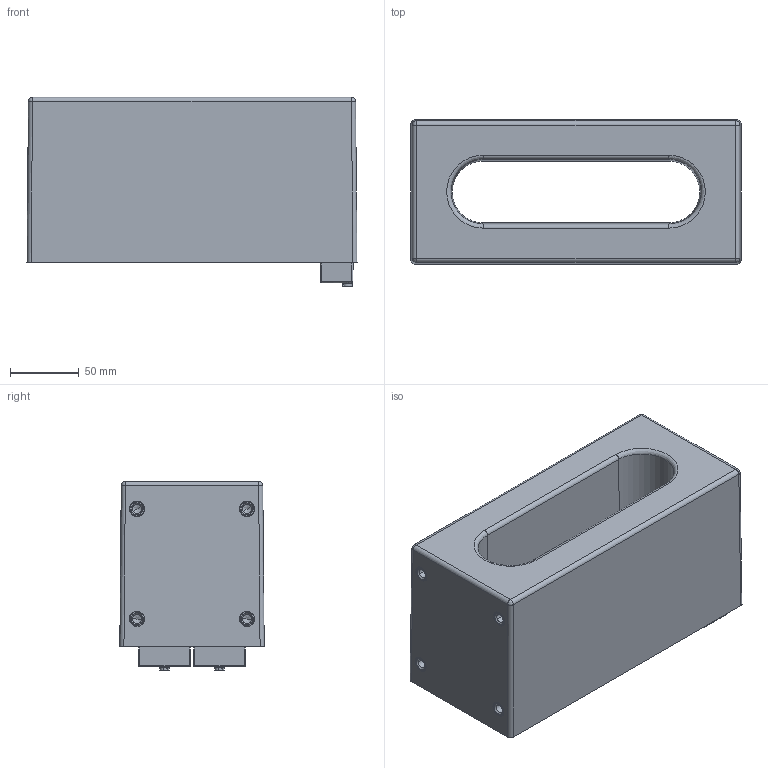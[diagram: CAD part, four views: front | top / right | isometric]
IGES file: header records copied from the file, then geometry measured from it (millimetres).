
Start section: IGES file generated from Kompas f.0 for Windows drawing by the IGES translator from Ascon Ltd., translator version IGESOUT-5.1.
Global section: file name: C:\Ðàáîòà\Èçâåùåíèÿ 5\ÒØÏ-ÍÒÇ-0.66-31 (îâàëüíûé)\3D ìîäåëü (ïî êîðîòêîé ñòîðîíå)\ÒØÏ-ÍÒÇ-0,66-31 Ó2, Ò2.igs; native system: Kompas( 32 bit ) for Windows; preprocessor: 1.0; author: Ïîëüçîâàòåëü Windows ; organization: Q; date: -17750311:091602; units: millimetre
Bounding box: 240 x 105 x 137.6 mm (x, y, z)
Volume: 2042685.7 mm3; surface area: 480141.8 mm2
Topology: 24 solids, 24 shells, 590 faces, 1314 edges, 766 vertices
Faces by surface type: revolution 376, bspline 214
